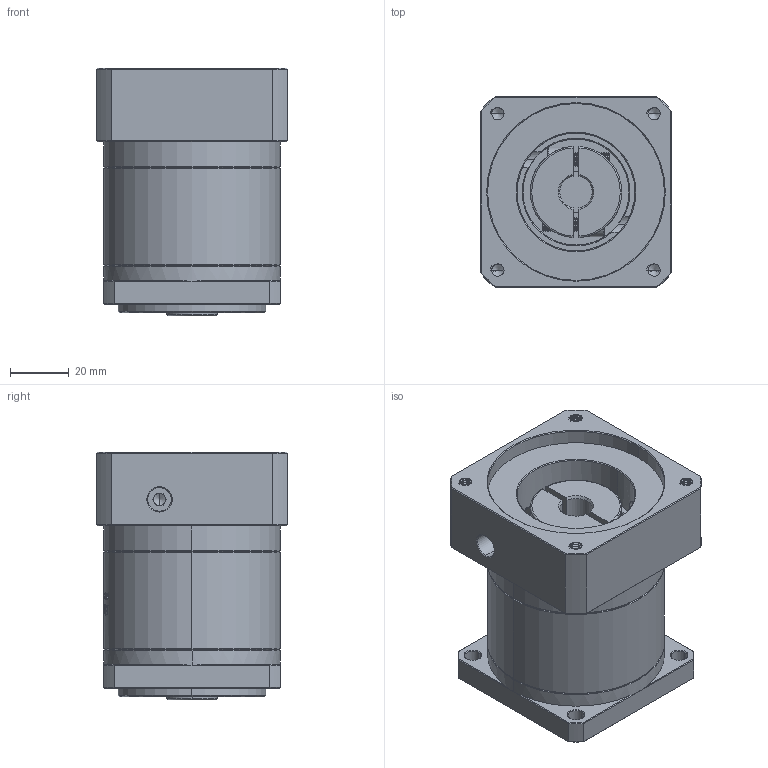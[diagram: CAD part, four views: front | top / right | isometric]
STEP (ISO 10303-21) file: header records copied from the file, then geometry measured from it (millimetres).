
FILE_DESCRIPTION (( 'STEP AP214' ), '1' );
FILE_NAME ('ZF060-K10-L1-P2-11-60-75-M5.step', '2023-08-16T04:29:44', ( '' ), ( '' ), 'SwSTEP 2.0', 'SolidWorks 2016', '' );
FILE_SCHEMA (( 'AUTOMOTIVE_DESIGN' ));
Length unit declared in the file: millimetre
Products named in the file (1): ZF060-K10-L1-P2-11-60-75-M5
Bounding box: 65 x 65 x 84 mm (x, y, z)
Volume: 227369.6 mm3; surface area: 45609.2 mm2
Topology: 6 solids, 6 shells, 1706 faces, 4622 edges, 2999 vertices
Faces by surface type: plane 792, bspline 347, cylinder 321, cone 228, torus 18
Entity records: 95250 total; most frequent: CARTESIAN_POINT 37516, ORIENTED_EDGE 9220, DIRECTION 6640, EDGE_CURVE 4610, VERTEX_POINT 2999, VECTOR 2376, LINE 2376, AXIS2_PLACEMENT_3D 2132
